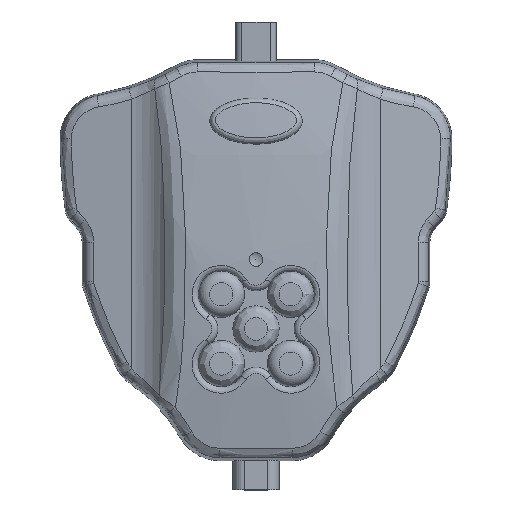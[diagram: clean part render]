
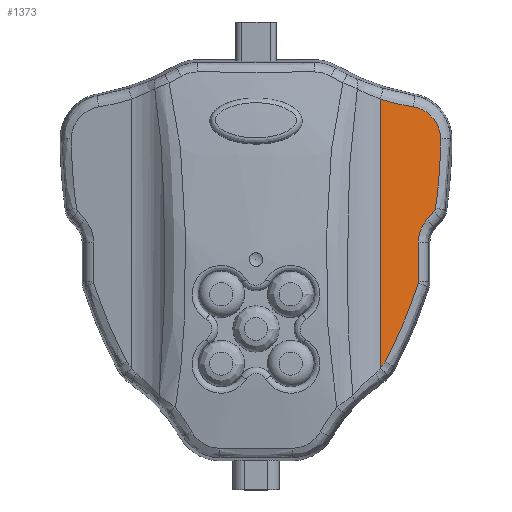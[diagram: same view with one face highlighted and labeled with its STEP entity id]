
A CAD part, top view. The second image highlights one B-rep face of the part: STEP entity #1373.
In plain terms, the highlighted planar face has unit normal (0.156, 0, 0.988).
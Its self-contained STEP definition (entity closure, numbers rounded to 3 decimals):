
#687=ELLIPSE('',#7170,5.669,5.599);
#688=ELLIPSE('',#7171,42.864,42.335);
#689=ELLIPSE('',#7172,5.594,5.525);
#690=ELLIPSE('',#7173,83.398,82.369);
#691=ELLIPSE('',#7174,1.118,1.105);
#692=ELLIPSE('',#7175,5.91,5.838);
#693=ELLIPSE('',#7176,1.143,1.129);
#694=ELLIPSE('',#7177,83.398,82.369);
#1373=ADVANCED_FACE('',(#1874),#1710,.T.);
#1710=PLANE('',#7178);
#1874=FACE_OUTER_BOUND('',#2306,.T.);
#2306=EDGE_LOOP('',(#3188,#3189,#3190,#3191,#3192,#3193,#3194,#3195,#3196,
#3197,#3198));
#3188=ORIENTED_EDGE('',*,*,#5511,.T.);
#3189=ORIENTED_EDGE('',*,*,#5512,.T.);
#3190=ORIENTED_EDGE('',*,*,#5513,.T.);
#3191=ORIENTED_EDGE('',*,*,#5514,.T.);
#3192=ORIENTED_EDGE('',*,*,#5515,.T.);
#3193=ORIENTED_EDGE('',*,*,#5516,.T.);
#3194=ORIENTED_EDGE('',*,*,#5517,.T.);
#3195=ORIENTED_EDGE('',*,*,#5518,.T.);
#3196=ORIENTED_EDGE('',*,*,#5519,.T.);
#3197=ORIENTED_EDGE('',*,*,#5520,.T.);
#3198=ORIENTED_EDGE('',*,*,#5521,.T.);
#4800=VERTEX_POINT('',#11289);
#4801=VERTEX_POINT('',#11290);
#4802=VERTEX_POINT('',#11292);
#4803=VERTEX_POINT('',#11294);
#4804=VERTEX_POINT('',#11296);
#4805=VERTEX_POINT('',#11298);
#4806=VERTEX_POINT('',#11300);
#4807=VERTEX_POINT('',#11302);
#4808=VERTEX_POINT('',#11304);
#4809=VERTEX_POINT('',#11306);
#4810=VERTEX_POINT('',#11308);
#5511=EDGE_CURVE('',#4800,#4801,#687,.T.);
#5512=EDGE_CURVE('',#4801,#4802,#688,.T.);
#5513=EDGE_CURVE('',#4802,#4803,#6296,.T.);
#5514=EDGE_CURVE('',#4803,#4804,#689,.T.);
#5515=EDGE_CURVE('',#4804,#4805,#690,.T.);
#5516=EDGE_CURVE('',#4805,#4806,#691,.T.);
#5517=EDGE_CURVE('',#4806,#4807,#6297,.T.);
#5518=EDGE_CURVE('',#4807,#4808,#692,.T.);
#5519=EDGE_CURVE('',#4808,#4809,#6298,.T.);
#5520=EDGE_CURVE('',#4809,#4810,#693,.T.);
#5521=EDGE_CURVE('',#4810,#4800,#694,.T.);
#6296=LINE('',#11293,#6673);
#6297=LINE('',#11301,#6674);
#6298=LINE('',#11305,#6675);
#6673=VECTOR('',#8306,1.);
#6674=VECTOR('',#8313,1.);
#6675=VECTOR('',#8316,1.);
#7170=AXIS2_PLACEMENT_3D('',#11288,#8302,#8303);
#7171=AXIS2_PLACEMENT_3D('',#11291,#8304,#8305);
#7172=AXIS2_PLACEMENT_3D('',#11295,#8307,#8308);
#7173=AXIS2_PLACEMENT_3D('',#11297,#8309,#8310);
#7174=AXIS2_PLACEMENT_3D('',#11299,#8311,#8312);
#7175=AXIS2_PLACEMENT_3D('',#11303,#8314,#8315);
#7176=AXIS2_PLACEMENT_3D('',#11307,#8317,#8318);
#7177=AXIS2_PLACEMENT_3D('',#11309,#8319,#8320);
#7178=AXIS2_PLACEMENT_3D('',#11310,#8321,#8322);
#8302=DIRECTION('',(0.156,0.,0.988));
#8303=DIRECTION('',(0.988,0.,-0.156));
#8304=DIRECTION('',(-0.156,0.,-0.988));
#8305=DIRECTION('',(-0.988,0.,0.156));
#8306=DIRECTION('',(0.,-1.,0.));
#8307=DIRECTION('',(0.156,0.,0.988));
#8308=DIRECTION('',(0.988,0.,-0.156));
#8309=DIRECTION('',(0.156,0.,0.988));
#8310=DIRECTION('',(0.988,0.,-0.156));
#8311=DIRECTION('',(0.156,0.,0.988));
#8312=DIRECTION('',(0.988,0.,-0.156));
#8313=DIRECTION('',(0.,1.,0.));
#8314=DIRECTION('',(-0.156,0.,-0.988));
#8315=DIRECTION('',(-0.988,0.,0.156));
#8316=DIRECTION('',(0.657,0.747,-0.104));
#8317=DIRECTION('',(0.156,0.,0.988));
#8318=DIRECTION('',(0.988,0.,-0.156));
#8319=DIRECTION('',(0.156,0.,0.988));
#8320=DIRECTION('',(0.988,0.,-0.156));
#8321=DIRECTION('',(0.156,0.,0.988));
#8322=DIRECTION('',(-0.988,0.,0.156));
#11288=CARTESIAN_POINT('',(26.359,20.937,9.239));
#11289=CARTESIAN_POINT('',(31.958,20.937,8.352));
#11290=CARTESIAN_POINT('',(27.263,26.463,9.095));
#11291=CARTESIAN_POINT('',(34.092,68.244,8.014));
#11292=CARTESIAN_POINT('',(21.552,27.808,10.));
#11293=CARTESIAN_POINT('',(21.552,-46.,10.));
#11294=CARTESIAN_POINT('',(21.552,-18.794,10.));
#11295=CARTESIAN_POINT('',(17.48,-15.059,10.645));
#11296=CARTESIAN_POINT('',(22.362,-17.647,9.872));
#11297=CARTESIAN_POINT('',(-50.413,20.937,21.398));
#11298=CARTESIAN_POINT('',(28.075,-4.057,8.967));
#11299=CARTESIAN_POINT('',(27.022,-3.722,9.134));
#11300=CARTESIAN_POINT('',(28.127,-3.722,8.959));
#11301=CARTESIAN_POINT('',(28.127,3.06,8.959));
#11302=CARTESIAN_POINT('',(28.127,3.06,8.959));
#11303=CARTESIAN_POINT('',(33.964,3.06,8.034));
#11304=CARTESIAN_POINT('',(29.581,6.916,8.728));
#11305=CARTESIAN_POINT('',(30.687,8.172,8.553));
#11306=CARTESIAN_POINT('',(30.803,8.303,8.535));
#11307=CARTESIAN_POINT('',(29.955,9.049,8.669));
#11308=CARTESIAN_POINT('',(31.072,8.884,8.492));
#11309=CARTESIAN_POINT('',(-50.413,20.937,21.398));
#11310=CARTESIAN_POINT('',(21.552,-46.,10.));
